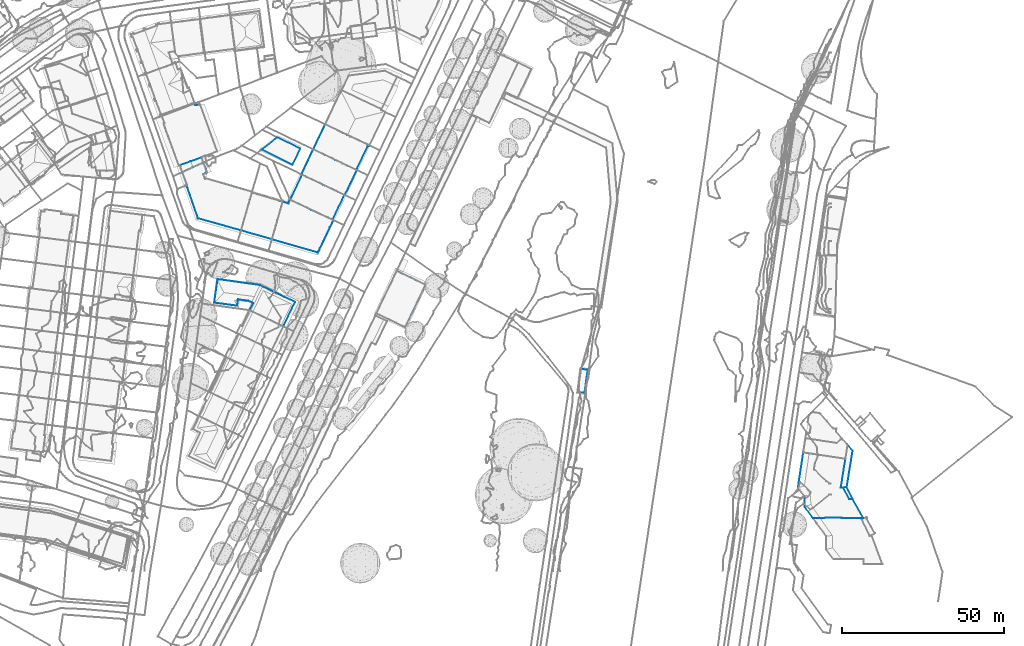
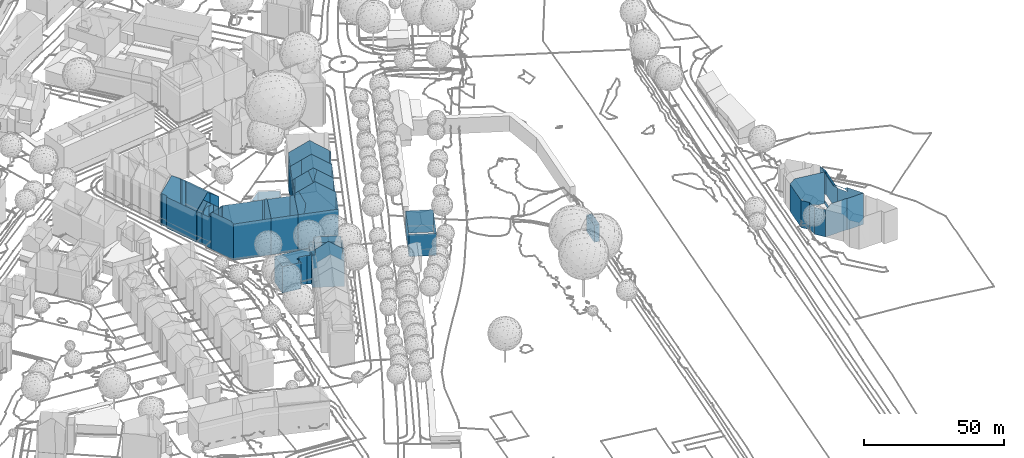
# Not in any storey, part 41 of 477: 12 walls.
"""IFC4 building model written with IfcOpenShell, lengths in metres."""

from ifc_helpers import new_model, si_unit, frame, origin_with_axes, place, context, subcontext, project, spatial, polygons, element, save


model = new_model("IFC4")

# Units and contexts
model_context = context("Model", 3, precision=1e-05, world=origin_with_axes())
body_context = subcontext(model_context, "Body", "Model", "MODEL_VIEW")
ifc_project = project(units=[si_unit("AREAUNIT", "SQUARE_METRE"), si_unit("LENGTHUNIT", "METRE")], contexts=[model_context])

# Sites, building
site_1_placement = place(None, origin_with_axes())
site_1 = spatial("IfcSite", under=ifc_project, at=site_1_placement, Name="Topoexport Site")
site_2_placement = place(site_1_placement, origin_with_axes())
site_2 = spatial("IfcSite", under=site_1, at=site_2_placement, Name="TPX_BUILDINGS")
building_1_placement = place(site_2_placement, frame((512.0047320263, 129.124816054, 499.5905), z_axis=(0.0, 0.0, 1.0), x_axis=(1.0, 0.0, 0.0)))
building_1 = spatial("IfcBuilding", under=site_2, at=building_1_placement, Name="Building 8", CompositionType="ELEMENT")

# Wall
wall_1_placement = place(None, frame((512.0047320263, 129.124816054, 499.5905), z_axis=(0.0, 0.0, 1.0), x_axis=(1.0, 0.0, 0.0)))
element("IfcWall", 1, at=wall_1_placement, inside=building_1, Name="Wall 0", context=body_context, shape_type="Tessellation", body=[
    polygons([(4.8489999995, 3.7899999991, 0.0), (11.9589999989, 0.3251999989, 5.7434), (4.8489999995, 3.7899999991, 5.7434), (0.0, 0.0, 0.0), (0.0, 0.0, 5.7434), (9.5069999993, -4.7080000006, 0.0), (9.5069999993, -4.7080000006, 5.7434), (11.9589999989, 0.3251999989, 0.0)], [[[3, 2, 1]], [[5, 3, 4]], [[7, 5, 6]], [[2, 7, 8]], [[2, 8, 1]], [[3, 1, 4]], [[5, 4, 6]], [[7, 6, 8]]]),
])

# Building
building_2_placement = place(site_2_placement, frame((497.3297320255, 81.7703160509, 498.9665), z_axis=(0.0, 0.0, 1.0), x_axis=(1.0, 0.0, 0.0)))
building_2 = spatial("IfcBuilding", under=site_2, at=building_2_placement, Name="Building 13", CompositionType="ELEMENT")

# Wall
wall_2_placement = place(None, frame((497.3297320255, 81.7703160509, 498.9665), z_axis=(0.0, 0.0, 1.0), x_axis=(1.0, 0.0, 0.0)))
element("IfcWall", 2, at=wall_2_placement, inside=building_2, Name="Wall 0", context=body_context, shape_type="Tessellation", body=[
    polygons([(21.8530000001, 1.7226999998, 14.0236), (21.8530000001, 1.7226999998, 14.2666), (21.7360000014, 1.4785000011, 14.2666), (24.9849999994, 0.2266000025, 0.0), (21.3509999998, -7.369099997, 14.2666), (24.9849999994, 0.2266000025, 14.2666), (11.3340000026, -1.4706999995, 5.5295), (11.4790000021, -1.1688999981, 13.9696), (10.9070000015, -2.3632999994, 13.9726), (10.9070000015, -2.3632999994, 0.0), (11.9830000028, -0.1132999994, 13.9666), (11.9830000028, -0.1132999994, 10.473), (11.9830000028, -0.1132999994, 3.4866), (11.9830000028, -0.1132999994, 0.0), (10.9480000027, -2.369099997, 0.0), (10.9480000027, -2.369099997, 14.0036), (0.9920000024, 6.9697000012, 0.0), (1.0340000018, 7.2675999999, 11.3719), (0.9920000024, 6.9688000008, 11.5129), (7.319000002, 0.8516000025, 0.0), (7.3410000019, 1.0186000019, 12.4818), (7.3410000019, 1.0186000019, 0.0), (7.2840000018, 0.5957000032, 12.2968), (7.3120000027, 0.8008000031, 9.2661), (7.3120000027, 0.8008000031, 3.0257), (12.3940000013, 1.9346000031, 13.1607), (11.5160000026, 0.1104000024, 13.5567), (11.5150000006, 0.1104000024, 12.3228), (14.0810000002, 5.4346000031, 11.4409), (14.0810000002, 5.4346000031, 13.5567), (23.9020000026, -0.3983999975, 14.2666), (21.932, -4.4891999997, 16.6284), (23.9020000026, -0.3983999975, 16.6274), (20.6960000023, -7.0546999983, 14.2666), (11.9240000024, -2.8388999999, 14.2666), (15.1330000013, 3.8252000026, 16.6474), (13.5439999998, 0.5244000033, 16.6474), (10.5109999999, 0.5908000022, 12.4738), (11.5160000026, 0.1104000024, 0.0), (10.5109999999, 0.5908000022, 0.0), (1.0340000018, 7.2675999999, 0.0), (12.9900000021, 5.6045000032, 0.0), (12.9900000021, 5.6045000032, 11.4279), (14.0270000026, 5.4600000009, 0.0), (14.0270000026, 5.4600000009, 11.4319), (21.8530000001, 1.7226999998, 0.0), (14.6390000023, 5.1670000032, 0.0), (14.6390000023, 5.1670000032, 14.0466), (9.7280000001, 0.6963, 0.0), (9.7280000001, 0.6963, 12.4758), (11.9240000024, -2.8388999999, 16.6474), (16.2129999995, -4.8993999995, 19.9271), (20.6960000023, -7.0546999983, 16.6284), (21.3509999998, -7.369099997, 0.0), (16.2129999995, -4.8993999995, 0.0), (11.9240000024, -2.8388999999, 0.0), (11.2479999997, -2.5136999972, 14.2666), (11.2479999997, -2.5136999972, 0.0), (20.6960000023, -7.0546999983, 0.0), (15.1330000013, 3.8252000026, 14.2666), (15.4460000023, 3.6748000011, 16.8864), (21.5340000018, 0.7432000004, 16.8864), (21.5329999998, 0.7432000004, 14.2666), (23.5510000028, -0.2294999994, 16.8863), (7.2840000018, 0.5957000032, 11.5619), (6.2120000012, 0.7344000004, 12.2968), (0.0, 0.0, 8.5732), (0.2730000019, 1.9199000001, 11.4679), (0.0, 0.0, 11.4509), (0.5650000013, 3.9726999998, 0.0), (7.0950000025, -0.8056999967, 11.5669), (7.075000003, -0.9530999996, 11.4809), (7.075000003, -0.9530999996, 0.0), (0.0540000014, -0.0067999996, 11.4879), (6.9140000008, -0.931599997, 11.4689), (6.9140000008, -0.931599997, 0.0), (0.0, 0.0, 5.6944), (0.0540000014, -0.0067999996, 0.0), (0.0, 0.0, 0.0)], [[[3, 2, 1]], [[6, 5, 4]], [[9, 8, 7]], [[9, 7, 10]], [[12, 7, 11]], [[13, 7, 12]], [[13, 14, 7]], [[7, 14, 10]], [[16, 9, 15]], [[19, 18, 17]], [[22, 21, 20]], [[24, 21, 23]], [[25, 21, 24]], [[25, 20, 21]], [[28, 27, 26]], [[26, 30, 29]], [[30, 26, 27]], [[33, 32, 31]], [[32, 34, 31]], [[37, 36, 35]], [[11, 27, 28]], [[28, 38, 12]], [[12, 38, 13]], [[28, 12, 11]], [[13, 39, 14]], [[39, 13, 40]], [[38, 40, 13]], [[43, 42, 41]], [[43, 44, 42]], [[44, 43, 45]], [[43, 41, 18]], [[47, 29, 46]], [[45, 29, 47]], [[44, 45, 47]], [[29, 30, 48]], [[1, 2, 6]], [[1, 46, 29]], [[1, 4, 46]], [[4, 1, 6]], [[1, 29, 48]], [[38, 50, 49]], [[49, 40, 38]], [[50, 21, 49]], [[49, 21, 22]], [[34, 52, 51]], [[53, 52, 34]], [[5, 34, 54]], [[51, 35, 34]], [[34, 35, 55]], [[35, 16, 56]], [[16, 35, 57]], [[58, 16, 15]], [[54, 34, 59]], [[56, 55, 35]], [[58, 56, 16]], [[34, 55, 59]], [[36, 61, 60]], [[60, 61, 62]], [[62, 63, 60]], [[64, 33, 63]], [[64, 63, 62]], [[33, 31, 63]], [[23, 66, 65]], [[69, 68, 67]], [[70, 67, 68]], [[17, 70, 19]], [[68, 19, 70]], [[71, 24, 65]], [[24, 71, 72]], [[24, 72, 25]], [[65, 24, 23]], [[73, 25, 72]], [[25, 73, 20]], [[67, 75, 74]], [[72, 75, 73]], [[76, 73, 75]], [[74, 69, 67]], [[77, 76, 75]], [[77, 78, 76]], [[78, 77, 79]], [[77, 75, 67]], [[5, 54, 4]], [[7, 8, 11]], [[9, 10, 15]], [[17, 18, 41]], [[53, 34, 32]], [[37, 35, 51]], [[36, 60, 35]], [[77, 67, 70]], [[70, 79, 77]]]),
])

# Building
building_3_placement = place(site_2_placement, frame((547.5007320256, 78.432416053, 499.3594), z_axis=(0.0, 0.0, 1.0), x_axis=(1.0, 0.0, 0.0)))
building_3 = spatial("IfcBuilding", under=site_2, at=building_3_placement, Name="Building 23", CompositionType="ELEMENT")

# Wall
wall_3_placement = place(None, frame((547.5007320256, 78.432416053, 499.3594), z_axis=(0.0, 0.0, 1.0), x_axis=(1.0, 0.0, 0.0)))
element("IfcWall", 3, at=wall_3_placement, inside=building_3, Name="Wall 0", context=body_context, shape_type="Tessellation", body=[
    polygons([(6.3900000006, 13.1044999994, 9.7081), (6.2900000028, 13.1523999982, 9.6691), (6.2900000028, 13.1523999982, 0.0), (1.5730000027, 3.2881000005, 9.6061), (0.0, 0.0, 9.5861), (4.7170000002, 9.8642999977, 9.6481), (12.2080000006, 10.3037, 5.7864), (9.3850000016, 11.6620999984, 9.7341), (9.6669999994, 11.5263999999, 0.0), (14.4840000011, 9.2071000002, 9.7791), (15.2149999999, 8.8554999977, 0.0), (15.2149999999, 8.8554999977, 9.4971), (12.0580000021, 2.2831999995, 9.5441), (12.6610000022, 3.5390999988, 0.0), (8.9040000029, -4.2802000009, 0.0), (8.9290000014, -4.2294999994, 9.5901), (4.4020000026, -2.1152000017, 9.6051), (8.9040000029, -4.2802000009, 9.5661), (0.0, 0.0, 0.0), (0.1460000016, -0.0692999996, 9.6421), (3.1449999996, 6.5762000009, 9.6271)], [[[3, 2, 1]], [[3, 5, 4]], [[3, 6, 2]], [[9, 8, 7]], [[1, 9, 3]], [[7, 8, 10]], [[11, 9, 7]], [[12, 11, 7]], [[11, 12, 13]], [[13, 14, 11]], [[16, 15, 13]], [[13, 15, 14]], [[18, 17, 15]], [[17, 20, 19]], [[5, 19, 20]], [[21, 3, 4]], [[19, 5, 3]], [[3, 21, 6]], [[8, 9, 1]], [[10, 12, 7]], [[16, 18, 15]], [[17, 19, 15]]]),
])

# Building
building_4_placement = place(site_2_placement, frame((524.2867320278, 121.4578160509, 499.2035), z_axis=(0.0, 0.0, 1.0), x_axis=(1.0, 0.0, 0.0)))
building_4 = spatial("IfcBuilding", under=site_2, at=building_4_placement, Name="Building 121", CompositionType="ELEMENT")

# Wall
wall_4_placement = place(None, frame((524.2867320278, 121.4578160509, 499.2035), z_axis=(0.0, 0.0, 1.0), x_axis=(1.0, 0.0, 0.0)))
element("IfcWall", 4, at=wall_4_placement, inside=building_4, Name="Wall 0", context=body_context, shape_type="Tessellation", body=[
    polygons([(10.5529999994, -5.0458999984, 0.0), (6.8169999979, -3.2597999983, 0.0), (10.5529999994, -5.0458999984, 17.6683), (10.5229999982, 4.4726999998, 0.0), (12.8429999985, 3.3662, 18.7102), (10.5229999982, 4.4726999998, 20.415), (15.7469999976, -1.5927999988, 0.0), (16.2159999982, -0.6220999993, 15.4545), (17.1490000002, 1.3096000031, 0.0), (17.1490000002, 1.3096000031, 15.4415), (14.4679999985, -4.2421999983, 0.0), (15.2839999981, -2.552699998, 15.4675), (13.4179999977, -6.4159999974, 15.4935), (14.3509999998, -4.4843999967, 15.4805), (12.8429999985, 3.3662, 0.0), (13.4179999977, -6.4159999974, 0.0), (1.7060000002, -0.8173999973, 16.7314), (6.8169999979, -3.2597000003, 20.415), (7.3479999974, 5.9893000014, 0.0), (7.3479999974, 5.9893000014, 18.1273), (0.0, 0.0, 0.0), (2.0700000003, 4.3526000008, 0.0), (1.6099999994, 3.3858000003, 3.8696), (3.6799999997, 7.7393000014, 0.0), (1.7060000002, -0.8173999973, 0.0), (0.0, 0.0, 15.5015), (3.6799999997, 7.7393000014, 15.4875), (1.9509999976, 4.1026000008, 15.4935)], [[[3, 2, 1]], [[6, 5, 4]], [[9, 8, 7]], [[10, 8, 9]], [[12, 11, 7]], [[14, 13, 11]], [[5, 9, 15]], [[9, 5, 10]], [[16, 13, 3]], [[1, 16, 3]], [[18, 17, 2]], [[20, 4, 19]], [[23, 22, 21]], [[23, 24, 22]], [[17, 21, 25]], [[26, 21, 17]], [[24, 27, 20]], [[19, 24, 20]], [[18, 2, 3]], [[5, 15, 4]], [[12, 7, 8]], [[14, 11, 12]], [[13, 16, 11]], [[17, 25, 2]], [[6, 4, 20]], [[21, 26, 28]], [[28, 23, 21]], [[27, 24, 28]], [[23, 28, 24]]]),
])

# Building
building_5_placement = place(site_2_placement, frame((487.4747320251, 122.1688160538, 499.2035), z_axis=(0.0, 0.0, 1.0), x_axis=(1.0, 0.0, 0.0)))
building_5 = spatial("IfcBuilding", under=site_2, at=building_5_placement, Name="Building 122", CompositionType="ELEMENT")

# Wall
wall_5_placement = place(None, frame((487.4747320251, 122.1688160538, 499.2035), z_axis=(0.0, 0.0, 1.0), x_axis=(1.0, 0.0, 0.0)))
element("IfcWall", 5, at=wall_5_placement, inside=building_5, Name="Wall 0", context=body_context, shape_type="Tessellation", body=[
    polygons([(6.0670000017, -1.9502000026, 15.1266), (6.8380000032, -1.6797000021, 14.2777), (6.8380000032, -1.6797000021, 15.1806), (1.3260000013, -3.6104000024, 13.4777), (3.0880000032, -2.9942000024, 15.1116), (1.3260000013, -3.6104000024, 15.1696), (6.7140000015, -1.3497000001, 14.3027), (6.6420000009, -1.1612000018, 0.0), (6.8460000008, -1.7012000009, 0.0), (6.4590000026, -0.6719000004, 0.0), (6.8620000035, -0.5254000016, 13.8677), (7.126000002, -0.4288000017, 0.0), (7.131000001, -0.4268000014, 13.6107), (6.4590000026, -0.6719000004, 14.2537), (6.5460000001, -0.9053000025, 3.5477), (6.5840000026, -1.004900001, 14.3007), (7.25, -0.384800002, 13.4797), (7.3110000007, -0.3624000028, 13.4137), (7.2780000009, -0.3740999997, 0.0), (7.1791000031, -0.4101999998, 13.5587), (7.2170000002, -0.3965000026, 3.3087), (7.2820000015, -0.2120000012, 0.0), (7.3110000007, -0.3624000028, 0.0), (7.2820000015, -0.2120000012, 13.3967), (6.5460000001, 2.9930999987, 0.0), (6.9280000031, 1.9461999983, 13.1018), (6.5460000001, 2.9930999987, 13.1358), (7.1860000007, 1.240199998, 0.0), (7.200000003, 1.2010999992, 13.0778), (5.9079999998, 2.7010999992, 0.0), (5.9079999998, 2.7010999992, 13.7527), (7.6860000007, -0.1328999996, 0.0), (7.3490000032, 0.7918999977, 13.0868), (7.3220000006, 0.8671000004, 4.8936), (7.6860000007, -0.1328999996, 13.1068), (3.2160000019, 1.4706999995, 0.0), (3.2160000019, 1.4706999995, 16.3535), (0.4120000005, -1.121100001, 13.3897), (1.2060000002, -3.2823000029, 13.4467), (1.2080000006, -3.2862000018, 0.0), (1.1850000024, 0.5418999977, 14.4666), (0.0, 0.0, 13.3598), (0.0, 0.0, 0.0), (1.3260000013, -3.6094000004, 0.0), (7.0080000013, -2.1328999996, 0.0), (7.0670000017, -2.1124000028, 15.6325), (7.0080000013, -2.1328999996, 15.6295), (1.4980000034, -4.0782000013, 15.6225), (1.4980000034, -4.0782000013, 0.0), (1.4070000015, -3.8311000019, 15.3826), (4.5580000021, -13.3887000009, 16.3984), (3.8200000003, -11.2823000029, 0.0), (3.8200000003, -11.2813000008, 16.4034), (4.5580000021, -13.389700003, 0.0), (3.0820000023, -9.1739000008, 0.0), (2.3440000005, -7.0665000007, 16.4114), (3.0820000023, -9.1729000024, 16.4074), (2.3440000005, -7.0665000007, 0.0), (1.5820000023, -4.8907000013, 0.0), (1.6060000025, -4.9581000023, 16.4155), (4.8840000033, -14.3213, 0.0), (4.8840000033, -14.3213, 15.7945), (7.9800000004, -15.192400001, 15.8085), (6.6380000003, -14.8155000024, 0.0), (7.995000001, -15.1963, 0.0), (19.8289999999, -12.2071000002, 0.0), (18.7540000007, -15.9415000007, 17.5013), (19.8289999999, -12.2071000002, 20.415), (18.1469999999, -18.0508000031, 0.0), (11.8010000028, -16.2666000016, 0.0), (14.4980000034, -17.0254000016, 15.8235), (18.1469999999, -18.0508000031, 15.8315), (18.7540000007, -15.9415000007, 0.0), (7.0620000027, -2.1143000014, 0.0), (7.3830000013, -1.996100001, 0.0), (7.3830000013, -1.996100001, 15.4775), (20.8560000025, -8.6416000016, 17.4713), (21.5870000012, -6.1016000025, 15.4225), (20.8560000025, -8.6416000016, 0.0), (21.5870000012, -6.1016000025, 0.0), (10.9340000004, -3.0235000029, 15.4645), (10.9340000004, -3.0225000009, 0.0), (17.3110000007, -4.8663000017, 0.0), (13.1740000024, -3.6700000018, 15.4555), (6.6340000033, -1.1387000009, 14.3187), (0.5400000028, -1.4708000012, 0.0), (1.319000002, -4.1387000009, 0.0), (1.319000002, -4.1387000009, 15.6265), (18.1510000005, -5.1094000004, 15.4365)], [[[3, 2, 1]], [[6, 5, 4]], [[8, 7, 2]], [[2, 9, 8]], [[12, 11, 10]], [[12, 13, 11]], [[14, 10, 11]], [[10, 16, 15]], [[14, 16, 10]], [[15, 16, 8]], [[15, 8, 10]], [[19, 18, 17]], [[20, 19, 17]], [[21, 19, 20]], [[13, 12, 20]], [[21, 20, 12]], [[21, 12, 19]], [[24, 23, 22]], [[27, 26, 25]], [[29, 28, 26]], [[31, 25, 30]], [[25, 31, 27]], [[34, 33, 32]], [[29, 33, 28]], [[34, 28, 33]], [[28, 34, 32]], [[32, 33, 35]], [[32, 35, 24]], [[22, 32, 24]], [[37, 31, 36]], [[40, 39, 38]], [[43, 42, 41]], [[41, 36, 43]], [[44, 39, 40]], [[44, 4, 39]], [[47, 46, 45]], [[2, 45, 9]], [[47, 45, 3]], [[50, 49, 48]], [[6, 4, 50]], [[49, 50, 44]], [[50, 4, 44]], [[53, 52, 51]], [[54, 51, 52]], [[57, 56, 55]], [[55, 56, 58]], [[57, 55, 52]], [[59, 58, 56]], [[59, 56, 60]], [[62, 54, 61]], [[64, 63, 62]], [[65, 63, 64]], [[62, 61, 64]], [[68, 67, 66]], [[71, 70, 69]], [[71, 69, 72]], [[63, 70, 71]], [[65, 70, 63]], [[67, 72, 73]], [[72, 69, 73]], [[76, 75, 74]], [[79, 78, 77]], [[79, 80, 78]], [[76, 81, 75]], [[84, 83, 82]], [[84, 82, 75]], [[80, 83, 78]], [[77, 66, 79]], [[85, 7, 16]], [[8, 16, 7]], [[23, 18, 19]], [[18, 23, 24]], [[25, 26, 28]], [[31, 30, 36]], [[40, 38, 86]], [[42, 43, 38]], [[86, 38, 43]], [[37, 36, 41]], [[45, 46, 74]], [[3, 45, 2]], [[88, 49, 87]], [[49, 88, 48]], [[60, 87, 59]], [[88, 87, 60]], [[52, 53, 57]], [[51, 54, 62]], [[67, 73, 66]], [[76, 74, 46]], [[84, 89, 83]], [[81, 84, 75]], [[83, 89, 78]], [[68, 66, 77]]]),
])

# Building
building_6_placement = place(site_2_placement, frame((515.185732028, 101.369916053, 499.2035), z_axis=(0.0, 0.0, 1.0), x_axis=(1.0, 0.0, 0.0)))
building_6 = spatial("IfcBuilding", under=site_2, at=building_6_placement, Name="Building 124", CompositionType="ELEMENT")

# Wall
wall_6_placement = place(None, frame((515.185732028, 101.369916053, 499.2035), z_axis=(0.0, 0.0, 1.0), x_axis=(1.0, 0.0, 0.0)))
element("IfcWall", 6, at=wall_6_placement, inside=building_6, Name="Wall 0", context=body_context, shape_type="Tessellation", body=[
    polygons([(1.1889999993, 4.1543000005, 0.0), (1.6730000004, 5.8438000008, 0.0), (1.1889999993, 4.1543000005, 19.0971), (3.3249999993, 11.6152999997, 0.0), (4.1649999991, 11.3642999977, 15.6585), (3.3249999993, 11.6152999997, 15.6515), (5.0989999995, 11.0850000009, 0.0), (4.4179999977, 11.2890999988, 3.9106), (5.0739999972, 11.0927999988, 15.6665), (1.6730000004, 5.8438000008, 20.415), (5.4120000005, 11.7441999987, 15.6815), (5.0989999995, 11.0850000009, 15.6835), (5.3880000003, 11.692400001, 4.8995), (5.6270000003, 12.1952999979, 15.6805), (5.6270000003, 12.1952999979, 0.0), (12.2129999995, 9.0947000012, 20.415), (17.3959999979, 6.6543000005, 0.0), (14.1959999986, -4.1053999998, 15.4465), (13.9199999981, -4.0254000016, 0.0), (13.987999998, -4.0449000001, 15.5875), (14.4269999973, -3.6220000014, 7.7232), (14.7579999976, -2.9316000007, 15.4455), (14.6229999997, -3.2138000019, 3.8616), (14.7649999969, -2.9169999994, 0.0), (14.4509999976, -3.5732000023, 15.4465), (14.1959999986, -4.1053999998, 0.0), (17.373999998, 6.6651000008, 16.6324), (4.1199999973, -1.191399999, 0.0), (6.2300000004, -1.8016999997, 15.7885), (0.0, 0.0, 0.0), (0.0, 0.0, 15.8105), (18.9919999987, 5.9023999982, 0.0), (17.9349999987, 3.6972999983, 0.0), (18.9919999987, 5.9023999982, 15.4065), (16.8789999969, 1.4932000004, 15.4265), (17.9349999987, 3.6983000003, 15.4165), (16.8789999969, 1.4932000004, 0.0), (15.8219999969, -0.7118999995, 15.4365), (15.8219999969, -0.7118999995, 0.0), (13.731999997, -3.9717000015, 15.7614)], [[[3, 2, 1]], [[6, 5, 4]], [[4, 8, 7]], [[9, 7, 8]], [[10, 4, 2]], [[4, 10, 6]], [[13, 12, 11]], [[15, 11, 14]], [[13, 15, 7]], [[9, 12, 7]], [[15, 14, 16]], [[17, 15, 16]], [[20, 19, 18]], [[23, 22, 21]], [[22, 23, 24]], [[24, 23, 21]], [[25, 18, 21]], [[21, 26, 24]], [[16, 27, 17]], [[19, 29, 28]], [[30, 28, 29]], [[30, 31, 3]], [[1, 30, 3]], [[34, 33, 32]], [[37, 36, 35]], [[35, 38, 37]], [[38, 22, 39]], [[24, 39, 22]], [[27, 32, 17]], [[32, 27, 34]], [[10, 2, 3]], [[4, 5, 8]], [[5, 9, 8]], [[13, 7, 12]], [[13, 11, 15]], [[20, 40, 19]], [[26, 18, 19]], [[25, 21, 22]], [[18, 26, 21]], [[40, 29, 19]], [[31, 30, 29]], [[37, 38, 39]], [[36, 33, 34]], [[33, 36, 37]]]),
])

# Building
building_7_placement = place(site_2_placement, frame((520.8127320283, 113.5652160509, 499.2035), z_axis=(0.0, 0.0, 1.0), x_axis=(1.0, 0.0, 0.0)))
building_7 = spatial("IfcBuilding", under=site_2, at=building_7_placement, Name="Building 125", CompositionType="ELEMENT")

# Wall
wall_7_placement = place(None, frame((520.8127320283, 113.5652160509, 499.2035), z_axis=(0.0, 0.0, 1.0), x_axis=(1.0, 0.0, 0.0)))
element("IfcWall", 7, at=wall_7_placement, inside=building_7, Name="Wall 0", context=body_context, shape_type="Tessellation", body=[
    polygons([(13.0939999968, -6.1630999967, 0.0), (6.5859999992, -3.1005999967, 0.0), (11.7469999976, -5.5292999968, 16.6324), (10.2909999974, 4.6328000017, 0.0), (14.0269999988, 2.8467000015, 17.6683), (10.2909999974, 4.6328000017, 20.415), (14.0909999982, -4.0653999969, 0.0), (14.925999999, -2.3104999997, 15.6045), (15.1479999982, -1.8436999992, 0.0), (16.7569999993, 1.5411000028, 0.0), (15.9119999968, -0.235299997, 15.6005), (16.7569999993, 1.5411000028, 15.5965), (13.0939999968, -6.1629999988, 15.6125), (14.0089999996, -4.2372999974, 15.6085), (14.0269999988, 2.8467000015, 0.0), (0.3449999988, 0.7256000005, 3.9186), (0.0, 0.0, 15.6805), (0.0, 0.0, 0.0), (0.9479999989, 1.9932000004, 0.0), (0.6889999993, 1.4502000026, 6.8573), (6.5859999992, -3.1004999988, 20.415), (5.1799999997, 7.0752000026, 0.0), (5.1799999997, 7.0752000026, 16.7314), (3.6999999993, 7.7842000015, 0.0), (3.6999999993, 7.7842000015, 15.6645), (2.2859999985, 4.8106000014, 15.6705), (0.3530000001, 0.7442000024, 15.6795), (0.8499999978, 1.7881000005, 15.6775)], [[[3, 2, 1]], [[6, 5, 4]], [[9, 8, 7]], [[12, 11, 10]], [[11, 9, 10]], [[1, 14, 13]], [[5, 10, 15]], [[10, 5, 12]], [[1, 13, 3]], [[18, 17, 16]], [[16, 20, 19]], [[16, 19, 18]], [[21, 17, 2]], [[17, 18, 2]], [[23, 4, 22]], [[26, 25, 24]], [[26, 24, 19]], [[24, 25, 23]], [[22, 24, 23]], [[21, 2, 3]], [[5, 15, 4]], [[11, 8, 9]], [[8, 14, 7]], [[7, 14, 1]], [[27, 20, 16]], [[27, 16, 17]], [[28, 20, 27]], [[28, 19, 20]], [[6, 4, 23]], [[19, 28, 26]]]),
])

# Building
building_8_placement = place(site_2_placement, frame((505.6217320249, 104.1180160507, 499.2035), z_axis=(0.0, 0.0, 1.0), x_axis=(1.0, 0.0, 0.0)))
building_8 = spatial("IfcBuilding", under=site_2, at=building_8_placement, Name="Building 126", CompositionType="ELEMENT")

# Wall
wall_8_placement = place(None, frame((505.6217320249, 104.1180160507, 499.2035), z_axis=(0.0, 0.0, 1.0), x_axis=(1.0, 0.0, 0.0)))
element("IfcWall", 8, at=wall_8_placement, inside=building_8, Name="Wall 0", context=body_context, shape_type="Tessellation", body=[
    polygons([(11.2370000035, 3.0957000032, 0.0), (10.7530000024, 1.4062000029, 19.0971), (11.2370000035, 3.0957000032, 20.415), (0.6070000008, 2.1093000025, 0.0), (1.682, 5.8437000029, 0.0), (0.6070000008, 2.1093000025, 17.5013), (3.9160000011, -1.125, 0.0), (9.564000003, -2.7480999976, 15.8105), (6.3370000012, -1.8213, 0.0), (0.0, 0.0, 15.8315), (5.2380000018, -1.5048999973, 15.8195), (10.7530000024, 1.4062000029, 0.0), (9.564000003, -2.7480999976, 0.0), (0.0, 0.0, 0.0), (7.6700000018, 10.4248000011, 3.8976), (5.3840000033, 11.1064000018, 15.6235), (6.4030000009, 10.8027000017, 0.0), (9.8210000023, 9.7832000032, 0.0), (7.6700000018, 10.4248000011, 15.6305), (11.9700000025, 9.1406000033, 15.6435), (9.8200000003, 9.7832000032, 15.6375), (11.9690000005, 9.1406000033, 0.0), (2.7090000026, 9.4091000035, 0.0), (3.3710000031, 11.7080000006, 0.0), (2.7090000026, 9.4092000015, 17.4713), (3.3710000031, 11.7080000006, 15.6165), (12.3470000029, 9.0283000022, 15.6475), (12.4010000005, 9.0127000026, 6.7213), (12.8890000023, 8.8672000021, 15.6515), (12.8890000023, 8.8672000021, 0.0), (1.682, 5.8437000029, 20.415)], [[[3, 2, 1]], [[6, 5, 4]], [[9, 8, 7]], [[7, 11, 10]], [[2, 13, 12]], [[8, 13, 2]], [[14, 10, 6]], [[4, 14, 6]], [[17, 16, 15]], [[15, 19, 18]], [[21, 20, 18]], [[15, 18, 17]], [[20, 22, 18]], [[25, 24, 23]], [[26, 24, 25]], [[28, 20, 27]], [[22, 20, 28]], [[30, 27, 29]], [[28, 30, 22]], [[31, 25, 5]], [[30, 29, 3]], [[1, 30, 3]], [[2, 12, 1]], [[31, 5, 6]], [[8, 11, 7]], [[8, 9, 13]], [[10, 14, 7]], [[16, 19, 15]], [[19, 21, 18]], [[24, 26, 16]], [[16, 17, 24]], [[28, 27, 30]], [[25, 23, 5]]]),
])

# Building
building_9_placement = place(site_2_placement, frame((609.8397320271, 54.1307160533, 498.4355), z_axis=(0.0, 0.0, 1.0), x_axis=(1.0, 0.0, 0.0)))
building_9 = spatial("IfcBuilding", under=site_2, at=building_9_placement, Name="Building 170", CompositionType="ELEMENT")

# Wall
wall_9_placement = place(None, frame((609.8397320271, 54.1307160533, 498.4355), z_axis=(0.0, 0.0, 1.0), x_axis=(1.0, 0.0, 0.0)))
element("IfcWall", 9, at=wall_9_placement, inside=building_9, Name="Wall 0", context=body_context, shape_type="Tessellation", body=[
    polygons([(1.0089999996, 7.1455000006, 0.0), (2.7509999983, 6.8993999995, 0.0), (1.4239999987, 7.0858999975, 7.3703), (2.9510000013, 6.8710999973, 7.4153), (2.7509999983, 6.8993999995, 7.3873), (2.9329999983, 6.873999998, 0.0), (2.5300000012, 2.9891999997, 0.0), (2.8229999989, 5.0692999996, 7.3163), (3.0749999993, 6.8534999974, 0.0), (3.0749999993, 6.8534999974, 7.2953), (2.068, -0.2822999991, 0.0), (2.3709999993, 1.865199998, 7.3543), (2.068, -0.2822999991, 7.3803), (0.0, 0.0, 0.0), (0.4479999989, 3.1678999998, 7.3683), (0.0, 0.0, 7.3303), (0.3460000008, 2.4481999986, 0.0), (1.006000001, 7.1210999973, 7.4153), (0.0669999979, -0.009800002, 0.0), (1.0089999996, 7.1455000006, 7.3893), (0.0700000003, -0.009800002, 7.3983)], [[[3, 2, 1]], [[6, 5, 4]], [[2, 5, 6]], [[9, 8, 7]], [[9, 10, 8]], [[7, 12, 11]], [[11, 12, 13]], [[6, 4, 9]], [[16, 15, 14]], [[15, 17, 14]], [[1, 17, 15]], [[1, 15, 18]], [[16, 14, 19]], [[13, 19, 11]], [[1, 18, 20]], [[3, 5, 2]], [[8, 12, 7]], [[10, 9, 4]], [[21, 16, 19]], [[21, 19, 13]], [[3, 1, 20]]]),
])

# Building
building_10_placement = place(site_2_placement, frame((677.9527320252, 24.5545160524, 498.9643), z_axis=(0.0, 0.0, 1.0), x_axis=(1.0, 0.0, 0.0)))
building_10 = spatial("IfcBuilding", under=site_2, at=building_10_placement, Name="Building 186", CompositionType="ELEMENT")

# Wall
wall_10_placement = place(None, frame((677.9527320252, 24.5545160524, 498.9643), z_axis=(0.0, 0.0, 1.0), x_axis=(1.0, 0.0, 0.0)))
element("IfcWall", 10, at=wall_10_placement, inside=building_10, Name="Wall 0", context=body_context, shape_type="Tessellation", body=[
    polygons([(2.0090000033, -2.5703000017, 0.0), (0.0, 0.0, 11.8179), (2.0090000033, -2.5703000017, 11.8179), (13.4460000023, -9.4814999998, 0.0), (13.444000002, -9.3115000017, 0.0), (13.4460000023, -9.4814000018, 13.6967), (20.2259999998, -9.3955000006, 13.7346), (16.9450000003, -3.5938000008, 13.7347), (16.9450000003, -3.5938000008, 11.8698), (16.9450000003, -3.5938000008, 1.7008), (20.2259999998, -9.3955000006, 0.0), (16.9450000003, -3.5938000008, 0.0), (2.0100000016, -3.6484000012, 11.8179), (2.0100000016, -3.6484000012, 0.0), (2.0250000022, -4.6182000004, 8.8691), (2.0450000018, -5.8623000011, 11.8499), (2.0450000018, -5.8623000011, 0.0), (15.8880000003, -3.5498000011, 1.7008), (14.0109999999, 0.004900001, 1.7008), (14.0109999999, 0.004900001, 1.5898), (14.0109999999, 0.004900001, 0.0), (15.8880000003, -3.5498000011, 0.0), (14.0109999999, 0.004900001, 13.4927), (15.8880000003, -3.5498000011, 13.7347), (14.0109999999, 0.004900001, 13.7347), (15.0810000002, 0.191399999, 1.7008), (15.0810000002, 0.191399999, 11.8698), (15.8880000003, -3.5498000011, 13.4927), (16.9110000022, 11.4638999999, 1.5899), (16.9110000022, 11.4638999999, 11.8699), (15.0810000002, 0.191399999, 1.5898), (14.0109999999, 0.004900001, 12.8238), (14.6840000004, 8.871100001, 0.0), (13.25, -0.0331999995, 1.5898), (14.6840000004, 8.871100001, 1.5899), (14.6840000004, 8.871100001, 13.4927), (13.25, -0.0331999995, 13.7347), (14.6840000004, 8.871100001, 13.7347), (13.25, -0.0331999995, 0.0), (13.25, -0.0331999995, 13.4927), (15.3830000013, 13.2080000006, 13.4927), (11.2930000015, 9.3838, 13.7127), (1.6420000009, 10.8427999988, 11.8719), (11.2930000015, 9.3838, 0.0), (1.6420000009, 10.8427999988, 0.0), (3.4070000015, 10.5762000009, 0.0), (3.4070000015, 10.5762000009, 13.6597), (0.7920000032, 5.2333999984, 0.0), (0.0, 0.0, 0.0), (0.7920000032, 5.2333999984, 11.8609), (0.0080000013, 0.0546999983, 11.8569), (19.5860000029, -9.4032999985, 0.0), (19.5860000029, -9.4032999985, 13.7346), (4.6590000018, -9.4189999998, 11.8428), (4.6590000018, -9.4189999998, 0.0), (13.1760000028, -9.3145000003, 13.6987), (5.2590000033, -9.4111000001, 12.3008), (6.8360000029, -9.3916000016, 13.6637), (13.444000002, -9.3115000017, 13.6987), (13.1760000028, -9.3145000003, 0.0), (6.8360000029, -9.3916000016, 0.0), (5.2590000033, -9.4111000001, 0.0), (15.3830000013, 13.2080000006, 1.5899), (16.9030000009, 11.4736000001, 11.8799)], [[[3, 2, 1]], [[6, 5, 4]], [[9, 8, 7]], [[9, 11, 10]], [[10, 11, 12]], [[14, 13, 3]], [[1, 14, 3]], [[16, 13, 15]], [[14, 17, 15]], [[20, 19, 18]], [[20, 22, 21]], [[25, 24, 23]], [[27, 9, 26]], [[18, 10, 22]], [[28, 24, 8]], [[8, 9, 28]], [[30, 26, 29]], [[26, 31, 29]], [[23, 27, 32]], [[35, 34, 33]], [[38, 37, 36]], [[34, 20, 39]], [[37, 25, 40]], [[23, 32, 40]], [[31, 26, 19]], [[19, 20, 31]], [[36, 41, 35]], [[44, 43, 42]], [[46, 45, 43]], [[44, 46, 43]], [[43, 47, 42]], [[42, 38, 36]], [[33, 44, 35]], [[36, 35, 42]], [[35, 44, 42]], [[49, 2, 48]], [[2, 51, 50]], [[50, 43, 45]], [[45, 48, 50]], [[50, 48, 2]], [[53, 52, 7]], [[53, 6, 52]], [[6, 4, 52]], [[17, 55, 54]], [[17, 54, 16]], [[58, 57, 56]], [[5, 59, 56]], [[57, 60, 56]], [[54, 61, 57]], [[61, 54, 62]], [[60, 5, 56]], [[60, 57, 61]], [[62, 54, 55]], [[41, 64, 63]], [[30, 29, 63]], [[30, 63, 64]], [[2, 49, 1]], [[59, 5, 6]], [[7, 11, 9]], [[17, 16, 15]], [[14, 15, 13]], [[18, 22, 20]], [[24, 28, 23]], [[9, 10, 26]], [[10, 12, 22]], [[27, 26, 30]], [[34, 39, 33]], [[37, 40, 36]], [[20, 21, 39]], [[25, 23, 40]], [[41, 63, 35]], [[52, 11, 7]]]),
])

# Building
building_11_placement = place(site_2_placement, frame((480.6997320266, 139.8172160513, 499.2146), z_axis=(0.0, 0.0, 1.0), x_axis=(1.0, 0.0, 0.0)))
building_11 = spatial("IfcBuilding", under=site_2, at=building_11_placement, Name="Building 195", CompositionType="ELEMENT")

# Wall
wall_11_placement = place(None, frame((480.6997320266, 139.8172160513, 499.2146), z_axis=(0.0, 0.0, 1.0), x_axis=(1.0, 0.0, 0.0)))
element("IfcWall", 11, at=wall_11_placement, inside=building_11, Name="Wall 0", context=body_context, shape_type="Tessellation", body=[
    polygons([(13.9569999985, -12.5751999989, 16.3074), (17.5920000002, -11.2480999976, 13.1857), (17.5920000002, -11.2480999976, -0.0001), (12.7259999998, -13.0243999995, -0.0001), (12.7259999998, -13.0243999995, 10.8529), (12.7259999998, -13.0243999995, 4.3415), (12.3209999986, 3.2002000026, 0.0), (12.3209999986, 3.2002000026, 13.1047), (12.1079999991, 3.1220999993, 13.2877), (12.1079999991, 3.1220999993, 0.0), (12.0560000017, 3.2675999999, 0.0), (12.0560000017, 3.2675999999, 13.2867), (10.6590000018, 3.0088, 0.0), (10.6590000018, 3.0088, 14.4156), (10.3189999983, 3.754900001, 0.0), (10.3189999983, 3.754900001, 14.4626), (0.1490000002, -0.4091999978, 0.0), (0.4580000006, -0.2939999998, 13.7376), (0.4580000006, -0.2939999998, 0.0), (1.2589999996, -2.4921999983, 0.0), (1.2589999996, -2.4921999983, 13.7396), (0.0, 0.0, 13.4767), (0.1490000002, -0.4091999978, 13.4777), (0.0, 0.0, 10.107), (0.0, 0.0, 6.7383), (0.0, 0.0, 0.0), (9.3830000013, -14.3280999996, -0.0001), (7.4759999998, -14.9706999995, -0.0001), (7.4759999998, -14.9706999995, -0.0111), (9.3830000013, -14.3280999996, -0.0111), (5.9919999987, -15.5165999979, -0.0001), (5.9919999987, -15.5165999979, -0.0111), (9.3830000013, -14.3280999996, 16.3424), (7.4759999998, -14.9706999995, 14.9875), (9.3830000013, -14.3280999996, 16.6083), (12.75, -13.0898999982, 17.3643), (12.7259999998, -13.0243999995, 17.3643), (12.7490000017, -13.0888999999, 13.1727), (13.1059999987, -14.0673999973, 13.1427), (13.3209999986, -14.6552999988, 13.1247), (13.1059999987, -14.0673999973, -0.0111), (13.3209999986, -14.6552999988, -0.0111), (12.7490000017, -13.0888999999, -0.0001), (12.7490000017, -13.0888999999, -0.0111), (6.7749999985, -17.6483999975, -0.0111), (6.2050000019, -16.0976999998, 13.3087), (6.7749999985, -17.6483999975, 13.3487), (6.2050000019, -16.0976999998, -0.0111), (5.9919999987, -15.5165999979, 13.2907), (4.0760000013, 1.4844000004, 16.8983), (5.7789999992, 2.1064000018, 18.3592), (5.7789999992, 2.1064000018, 0.0), (4.0760000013, 1.4844000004, 0.0), (5.7100000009, -15.6171999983, -0.0001), (1.818, -4.9560999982, 13.4907), (5.7100000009, -15.6171999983, 13.4736), (1.818, -4.9560999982, 0.0), (0.9589999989, -2.6024999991, 0.0), (0.9589999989, -2.6024999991, 13.4877), (7.4759999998, -14.9706999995, 14.6325), (5.9919999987, -15.5165999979, 13.7146), (11.5080000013, -13.5458999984, -0.0001), (11.5080000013, -13.5458999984, 14.3406), (11.5080000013, -13.5458999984, 18.4322), (11.2190000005, -15.6162, -0.0111), (12.6829999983, -14.9472999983, -0.0111), (12.6829999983, -14.9472999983, 13.7416), (7.9600000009, -17.1064999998, 14.4555), (11.2459999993, -15.6034999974, 15.1305), (9.9910000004, -16.177699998, 16.3424)], [[[3, 2, 1]], [[3, 1, 4]], [[6, 1, 5]], [[6, 4, 1]], [[8, 3, 7]], [[2, 3, 8]], [[8, 10, 9]], [[8, 7, 10]], [[12, 9, 11]], [[9, 10, 11]], [[14, 11, 13]], [[11, 14, 12]], [[16, 14, 15]], [[19, 18, 17]], [[21, 18, 20]], [[18, 19, 20]], [[24, 23, 22]], [[25, 23, 24]], [[23, 26, 17]], [[29, 28, 27]], [[27, 30, 29]], [[32, 31, 28]], [[28, 29, 32]], [[35, 34, 33]], [[5, 37, 36]], [[5, 36, 38]], [[6, 5, 39]], [[5, 38, 39]], [[41, 39, 40]], [[41, 40, 42]], [[4, 6, 43]], [[41, 44, 43]], [[6, 41, 43]], [[6, 39, 41]], [[47, 46, 45]], [[45, 46, 48]], [[49, 31, 48]], [[32, 48, 31]], [[49, 48, 46]], [[16, 24, 50]], [[24, 22, 50]], [[16, 25, 24]], [[50, 51, 16]], [[16, 15, 52]], [[53, 25, 52]], [[26, 25, 53]], [[52, 25, 16]], [[56, 55, 54]], [[57, 54, 55]], [[55, 58, 57]], [[59, 58, 55]], [[34, 61, 60]], [[60, 61, 49]], [[49, 56, 54]], [[56, 49, 61]], [[31, 49, 54]], [[30, 27, 44]], [[44, 27, 62]], [[44, 62, 43]], [[38, 36, 63]], [[33, 36, 64]], [[36, 33, 63]], [[33, 64, 35]], [[66, 47, 65]], [[45, 65, 47]], [[66, 42, 47]], [[68, 40, 67]], [[68, 67, 69]], [[68, 47, 40]], [[68, 69, 70]], [[40, 47, 42]], [[37, 5, 1]], [[14, 13, 15]], [[23, 17, 18]], [[59, 21, 20]], [[59, 20, 58]], [[25, 26, 23]], [[34, 60, 33]]]),
])

# Building
building_12_placement = place(site_2_placement, frame((527.9667320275, 129.1980160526, 499.2035), z_axis=(0.0, 0.0, 1.0), x_axis=(1.0, 0.0, 0.0)))
building_12 = spatial("IfcBuilding", under=site_2, at=building_12_placement, Name="Building 196", CompositionType="ELEMENT")

# Wall
wall_12_placement = place(None, frame((527.9667320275, 129.1980160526, 499.2035), z_axis=(0.0, 0.0, 1.0), x_axis=(1.0, 0.0, 0.0)))
element("IfcWall", 12, at=wall_12_placement, inside=building_12, Name="Wall 0", context=body_context, shape_type="Tessellation", body=[
    polygons([(9.1629999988, -4.3740000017, 0.0), (6.8429999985, -3.2675000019, 0.0), (9.1629999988, -4.3740000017, 18.7102), (10.5439999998, 4.4580999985, 0.0), (11.4499999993, 4.0254000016, 19.7491), (10.5439999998, 4.4580999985, 20.415), (13.4690000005, -6.4305999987, 15.4415), (13.5859999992, -6.1865000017, 15.4405), (13.4690000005, -6.4305999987, 0.0), (13.5859999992, -6.1865000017, 0.0), (13.4419999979, -6.1171000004, 15.5505), (13.4419999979, -6.1171000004, 0.0), (15.1730000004, -2.5058000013, 15.5345), (16.9030000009, 1.1035999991, 15.5175), (16.9030000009, 1.1035999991, 0.0), (17.25, 0.9384999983, 15.2545), (17.25, 0.9384999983, 0.0), (17.373999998, 1.1992999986, 15.2545), (17.373999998, 1.1992999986, 0.0), (11.4499999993, 4.0254000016, 0.0), (3.6679999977, -1.7509000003, 18.1273), (6.8429999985, -3.2675000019, 20.415), (9.3049999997, 5.0489000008, 0.0), (9.3049999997, 5.0489000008, 19.5221), (0.0, 0.0, 0.0), (1.8379999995, 3.866299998, 0.0), (1.693, 3.5595999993, 15.4795), (3.675999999, 7.7324999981, 0.0), (3.675999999, 7.7324999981, 15.4715), (3.6679999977, -1.7509000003, 0.0), (0.0, 0.0, 15.4865)], [[[3, 2, 1]], [[6, 5, 4]], [[9, 8, 7]], [[12, 11, 10]], [[11, 8, 10]], [[12, 14, 13]], [[15, 14, 12]], [[17, 16, 15]], [[14, 15, 16]], [[19, 18, 16]], [[5, 19, 20]], [[18, 19, 5]], [[9, 7, 3]], [[1, 9, 3]], [[22, 21, 2]], [[24, 4, 23]], [[27, 26, 25]], [[29, 28, 27]], [[26, 27, 28]], [[21, 25, 30]], [[25, 21, 31]], [[28, 29, 24]], [[23, 28, 24]], [[22, 2, 3]], [[5, 20, 4]], [[8, 9, 10]], [[13, 11, 12]], [[16, 17, 19]], [[21, 30, 2]], [[6, 4, 24]], [[31, 27, 25]]]),
])

save(model, "model.ifc")
